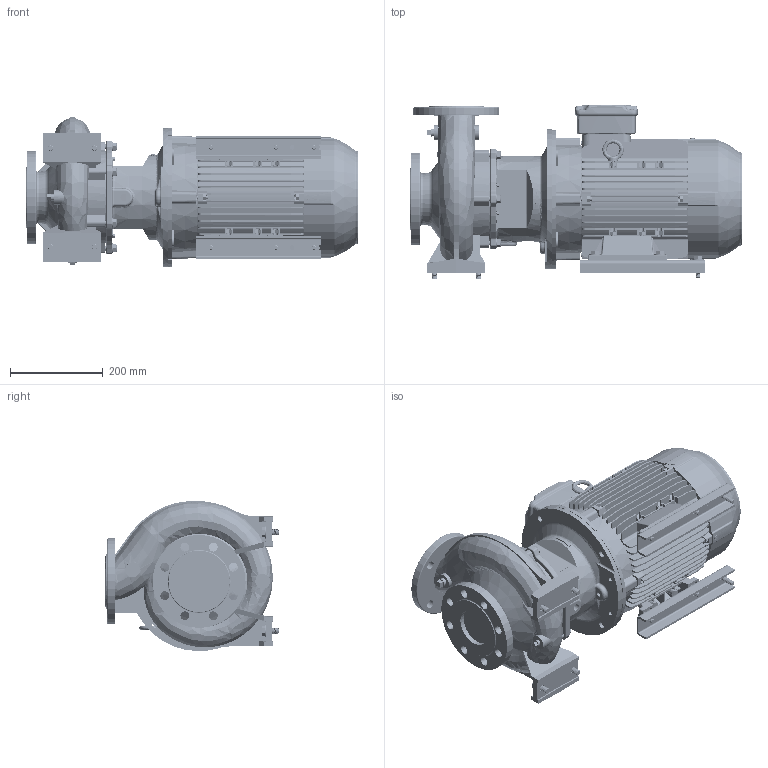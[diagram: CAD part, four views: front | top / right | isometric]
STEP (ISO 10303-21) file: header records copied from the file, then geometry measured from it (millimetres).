
FILE_DESCRIPTION (( 'STEP AP214' ), '1' );
FILE_NAME ('GSD2 65-160_7.5_(132S)_W21.STEP', '2026-07-09T05:51:21', ( '' ), ( '' ), 'SwSTEP 2.0', 'SolidWorks 2024', '' );
FILE_SCHEMA (( 'AUTOMOTIVE_DESIGN' ));
Length unit declared in the file: millimetre
Products named in the file (12): 65-160-132S_ﾃﾞﾌｫﾙﾄ; Parametric Flat Washer_M10; Parametric bolt_SFT-A253B; Parametric bolt and washer_SFT-A275B; Parametric Flat Washer_M12; Parametric bolt and washer_SFT-A253B; Parametric bolt_SFT-A257B; Parametric bolt_SFT-A299B; GSD2  65-160_7.5_(132S)_W21; Parametric bolt and washer_SFT-A299B; 140_178 x 28 - 271472025; 132S ALIE3_W21T_B35
Assembly tree (20 placements, depth 3):
  GSD2  65-160_7.5_(132S)_W21
    65-160-132S_ﾃﾞﾌｫﾙﾄ
    140_178 x 28 - 271472025  x2
    Parametric bolt and washer_SFT-A275B  x2
      Parametric bolt_SFT-A257B
      Parametric Flat Washer_M10
    Parametric bolt and washer_SFT-A299B  x4
      Parametric bolt_SFT-A299B
      Parametric Flat Washer_M12
    Parametric bolt and washer_SFT-A253B  x4
      Parametric bolt_SFT-A253B
      Parametric Flat Washer_M10
    132S ALIE3_W21T_B35
Bounding box: 714.8 x 375.5 x 323.46 mm (x, y, z)
Volume: 29488835.8 mm3; surface area: 1976380 mm2
Topology: 27 solids, 27 shells, 4718 faces, 12214 edges, 7885 vertices
Faces by surface type: plane 2846, cylinder 1103, torus 280, bspline 252, cone 205, sphere 32
Entity records: 170916 total; most frequent: CARTESIAN_POINT 68050, ORIENTED_EDGE 22096, DIRECTION 20012, EDGE_CURVE 11048, LINE 7500, VECTOR 7500, VERTEX_POINT 7137, AXIS2_PLACEMENT_3D 6256
